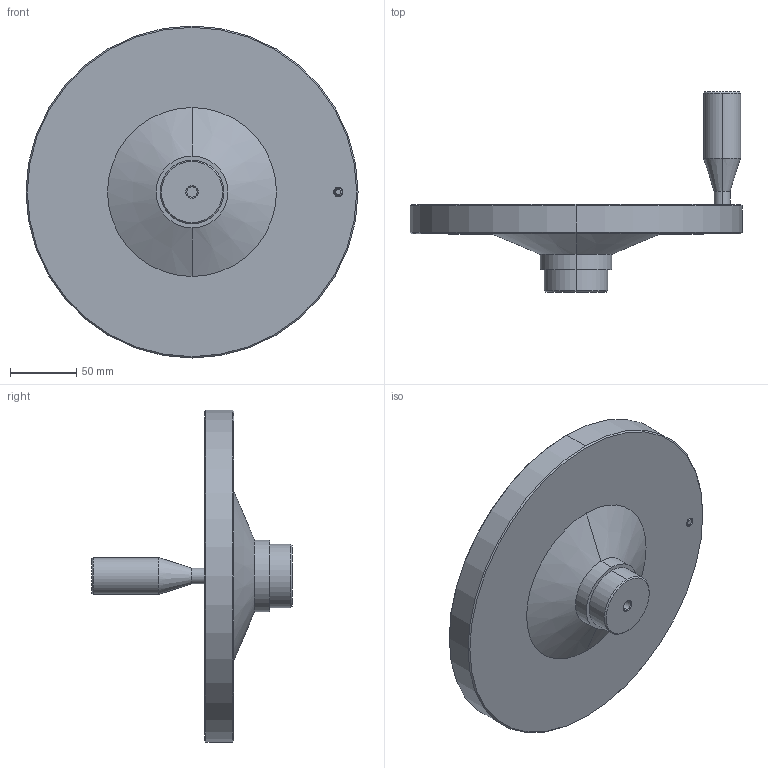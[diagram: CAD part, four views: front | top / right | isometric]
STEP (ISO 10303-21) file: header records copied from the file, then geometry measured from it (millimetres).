
FILE_DESCRIPTION (( 'STEP AP203' ), '1' );
FILE_NAME ('77640.W0250.step', '2019-08-13T15:13:47', ( '' ), ( '' ), 'SwSTEP 2.0', 'SolidWorks 2017', '' );
FILE_SCHEMA (( 'CONFIG_CONTROL_DESIGN' ));
Length unit declared in the file: millimetre
Products named in the file (3): Part1_77640.W0250; 77640.W0250; Part2_77640.W0250
Assembly tree (2 placements, depth 2):
  77640.W0250
    Part1_77640.W0250
    Part2_77640.W0250
Bounding box: 250 x 151 x 250 mm (x, y, z)
Volume: 918263.2 mm3; surface area: 133549.1 mm2
Topology: 2 solids, 2 shells, 59 faces, 116 edges, 68 vertices
Faces by surface type: cone 24, cylinder 24, plane 11
Entity records: 1845 total; most frequent: DIRECTION 308, CARTESIAN_POINT 276, ORIENTED_EDGE 232, AXIS2_PLACEMENT_3D 130, EDGE_CURVE 116, EDGE_LOOP 68, VERTEX_POINT 68, CIRCLE 66
